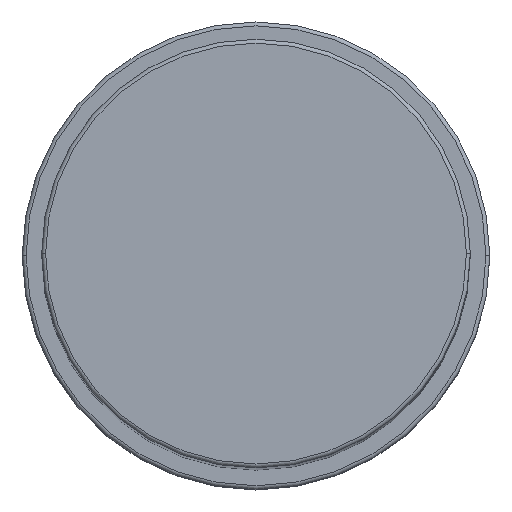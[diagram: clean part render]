
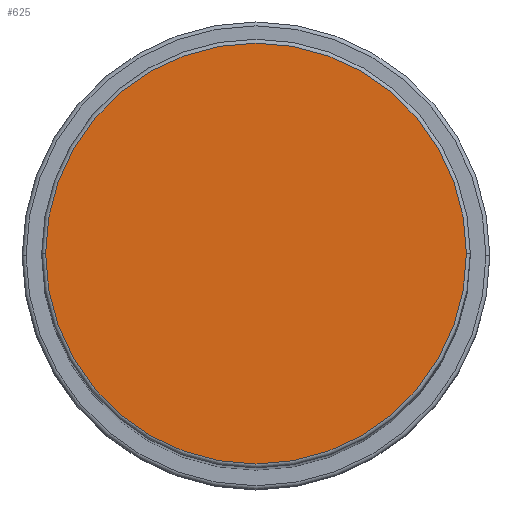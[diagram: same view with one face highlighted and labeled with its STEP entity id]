
A CAD part, top view. The second image highlights one B-rep face of the part: STEP entity #625.
In plain terms, the highlighted planar face has unit normal (0, 0, 1).
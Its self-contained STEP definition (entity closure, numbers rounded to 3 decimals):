
#12 = CARTESIAN_POINT ( 'NONE',  ( 0., 0., 178. ) ) ;
#88 = ORIENTED_EDGE ( 'NONE', *, *, #428, .T. ) ;
#168 = AXIS2_PLACEMENT_3D ( 'NONE', #1300, #838, #1601 ) ;
#321 = PLANE ( 'NONE',  #907 ) ;
#428 = EDGE_CURVE ( 'NONE', #1616, #1415, #1542, .T. ) ;
#458 = CARTESIAN_POINT ( 'NONE',  ( 0., 0., 178. ) ) ;
#617 = DIRECTION ( 'NONE',  ( 0., 0., 1. ) ) ;
#625 = ADVANCED_FACE ( 'NONE', ( #647 ), #321, .T. ) ;
#647 = FACE_OUTER_BOUND ( 'NONE', #1156, .T. ) ;
#800 = CIRCLE ( 'NONE', #168, 27. ) ;
#838 = DIRECTION ( 'NONE',  ( 0., 0., 1. ) ) ;
#907 = AXIS2_PLACEMENT_3D ( 'NONE', #12, #1260, #1255 ) ;
#1156 = EDGE_LOOP ( 'NONE', ( #1419, #88 ) ) ;
#1255 = DIRECTION ( 'NONE',  ( 1., 0., 0. ) ) ;
#1260 = DIRECTION ( 'NONE',  ( 0., 0., 1. ) ) ;
#1300 = CARTESIAN_POINT ( 'NONE',  ( 0., 0., 178. ) ) ;
#1366 = CARTESIAN_POINT ( 'NONE',  ( 27., 0., 178. ) ) ;
#1415 = VERTEX_POINT ( 'NONE', #1366 ) ;
#1419 = ORIENTED_EDGE ( 'NONE', *, *, #1511, .T. ) ;
#1511 = EDGE_CURVE ( 'NONE', #1415, #1616, #800, .T. ) ;
#1542 = CIRCLE ( 'NONE', #1578, 27. ) ;
#1578 = AXIS2_PLACEMENT_3D ( 'NONE', #458, #617, #1870 ) ;
#1601 = DIRECTION ( 'NONE',  ( 1., 0., 0. ) ) ;
#1616 = VERTEX_POINT ( 'NONE', #1959 ) ;
#1870 = DIRECTION ( 'NONE',  ( 1., 0., 0. ) ) ;
#1959 = CARTESIAN_POINT ( 'NONE',  ( -27., 0., 178. ) ) ;
